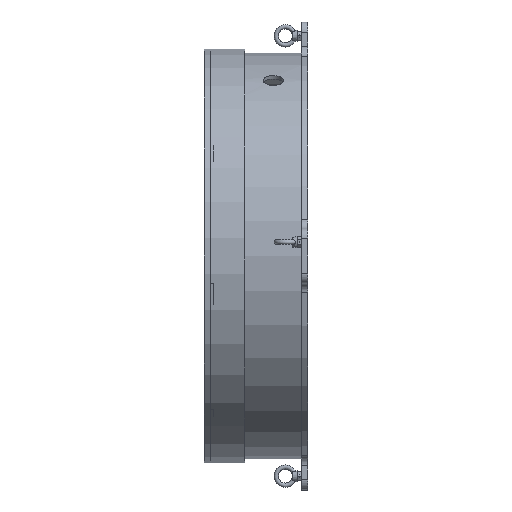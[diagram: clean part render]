
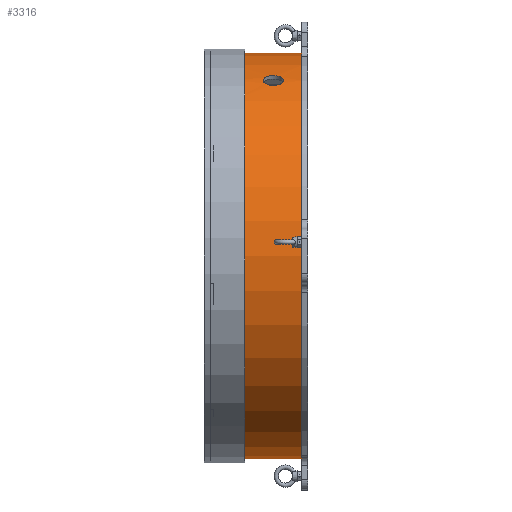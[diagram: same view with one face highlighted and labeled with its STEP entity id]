
A CAD part, left-side view. The second image highlights one B-rep face of the part: STEP entity #3316.
In plain terms, the highlighted cylindrical face has radius 293 mm (diameter 586 mm), a partial arc.
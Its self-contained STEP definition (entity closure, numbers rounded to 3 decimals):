
#246=FACE_BOUND('',#776,.T.);
#301=B_SPLINE_CURVE_WITH_KNOTS('',3,(#5300,#5301,#5302,#5303,#5304,#5305,
#5306,#5307,#5308,#5309,#5310,#5311,#5312,#5313,#5314,#5315,#5316,#5317,
#5318,#5319,#5320,#5321,#5322,#5323,#5324,#5325,#5326,#5327,#5328,#5329,
#5330,#5331,#5332,#5333),.UNSPECIFIED.,.T.,.F.,(4,2,2,2,2,2,2,2,2,2,2,2,
2,2,2,2,4),(0.,0.546,1.093,1.639,2.185,
2.731,3.278,3.824,4.37,4.917,
5.463,6.009,6.555,7.102,7.648,
8.194,8.741),.UNSPECIFIED.);
#323=CYLINDRICAL_SURFACE('',#3748,293.);
#389=CIRCLE('',#3744,293.);
#390=CIRCLE('',#3746,293.);
#392=CIRCLE('',#3749,293.);
#393=CIRCLE('',#3750,293.);
#573=FACE_OUTER_BOUND('',#775,.T.);
#775=EDGE_LOOP('',(#2299,#2300,#2301,#2302,#2303,#2304));
#776=EDGE_LOOP('',(#2305));
#1029=LINE('',#5273,#1273);
#1035=LINE('',#5285,#1279);
#1273=VECTOR('',#4175,10.);
#1279=VECTOR('',#4183,10.);
#1516=VERTEX_POINT('',#5269);
#1518=VERTEX_POINT('',#5272);
#1521=VERTEX_POINT('',#5279);
#1523=VERTEX_POINT('',#5283);
#1525=VERTEX_POINT('',#5289);
#1526=VERTEX_POINT('',#5296);
#1527=VERTEX_POINT('',#5299);
#1818=EDGE_CURVE('',#1518,#1516,#1029,.T.);
#1824=EDGE_CURVE('',#1521,#1523,#1035,.T.);
#1827=EDGE_CURVE('',#1525,#1523,#389,.T.);
#1828=EDGE_CURVE('',#1518,#1525,#390,.T.);
#1830=EDGE_CURVE('',#1516,#1526,#392,.T.);
#1831=EDGE_CURVE('',#1526,#1521,#393,.T.);
#1832=EDGE_CURVE('',#1527,#1527,#301,.T.);
#2299=ORIENTED_EDGE('',*,*,#1818,.T.);
#2300=ORIENTED_EDGE('',*,*,#1830,.T.);
#2301=ORIENTED_EDGE('',*,*,#1831,.T.);
#2302=ORIENTED_EDGE('',*,*,#1824,.T.);
#2303=ORIENTED_EDGE('',*,*,#1827,.F.);
#2304=ORIENTED_EDGE('',*,*,#1828,.F.);
#2305=ORIENTED_EDGE('',*,*,#1832,.T.);
#3316=ADVANCED_FACE('',(#573,#246),#323,.T.);
#3744=AXIS2_PLACEMENT_3D('',#5291,#4189,#4190);
#3746=AXIS2_PLACEMENT_3D('',#5293,#4193,#4194);
#3748=AXIS2_PLACEMENT_3D('',#5295,#4197,#4198);
#3749=AXIS2_PLACEMENT_3D('',#5297,#4199,#4200);
#3750=AXIS2_PLACEMENT_3D('',#5298,#4201,#4202);
#4175=DIRECTION('',(0.,1.,0.));
#4183=DIRECTION('',(0.,-1.,0.));
#4189=DIRECTION('center_axis',(0.,-1.,0.));
#4190=DIRECTION('ref_axis',(-1.,0.,0.));
#4193=DIRECTION('center_axis',(0.,-1.,0.));
#4194=DIRECTION('ref_axis',(-1.,0.,0.));
#4197=DIRECTION('center_axis',(0.,-1.,0.));
#4198=DIRECTION('ref_axis',(0.866,0.,0.5));
#4199=DIRECTION('center_axis',(0.,-1.,0.));
#4200=DIRECTION('ref_axis',(-1.,0.,0.));
#4201=DIRECTION('center_axis',(0.,-1.,0.));
#4202=DIRECTION('ref_axis',(-1.,0.,0.));
#5269=CARTESIAN_POINT('',(-253.595,100.,-146.76));
#5272=CARTESIAN_POINT('',(-253.595,0.,-146.76));
#5273=CARTESIAN_POINT('',(-253.595,50.,-146.76));
#5279=CARTESIAN_POINT('',(-253.895,100.,-146.24));
#5283=CARTESIAN_POINT('',(-253.895,0.,-146.24));
#5285=CARTESIAN_POINT('',(-253.895,50.,-146.24));
#5289=CARTESIAN_POINT('',(-293.,0.,0.));
#5291=CARTESIAN_POINT('Origin',(0.,0.,0.));
#5293=CARTESIAN_POINT('Origin',(0.,0.,0.));
#5295=CARTESIAN_POINT('Origin',(0.,50.,0.));
#5296=CARTESIAN_POINT('',(-293.,100.,0.));
#5297=CARTESIAN_POINT('Origin',(0.,100.,0.));
#5298=CARTESIAN_POINT('Origin',(0.,100.,0.));
#5299=CARTESIAN_POINT('',(133.763,41.,-260.685));
#5300=CARTESIAN_POINT('Ctrl Pts',(133.763,41.,-260.685));
#5301=CARTESIAN_POINT('Ctrl Pts',(133.763,39.179,-260.685));
#5302=CARTESIAN_POINT('Ctrl Pts',(134.088,37.237,-260.519));
#5303=CARTESIAN_POINT('Ctrl Pts',(135.403,33.664,-259.837));
#5304=CARTESIAN_POINT('Ctrl Pts',(136.394,32.034,-259.321));
#5305=CARTESIAN_POINT('Ctrl Pts',(138.668,29.46,-258.112));
#5306=CARTESIAN_POINT('Ctrl Pts',(140.104,28.344,-257.338));
#5307=CARTESIAN_POINT('Ctrl Pts',(143.232,26.864,-255.611));
#5308=CARTESIAN_POINT('Ctrl Pts',(144.923,26.5,-254.656));
#5309=CARTESIAN_POINT('Ctrl Pts',(148.077,26.5,-252.835));
#5310=CARTESIAN_POINT('Ctrl Pts',(149.75,26.864,-251.848));
#5311=CARTESIAN_POINT('Ctrl Pts',(152.81,28.344,-250.003));
#5312=CARTESIAN_POINT('Ctrl Pts',(154.197,29.46,-249.146));
#5313=CARTESIAN_POINT('Ctrl Pts',(156.382,32.034,-247.781));
#5314=CARTESIAN_POINT('Ctrl Pts',(157.324,33.664,-247.181));
#5315=CARTESIAN_POINT('Ctrl Pts',(158.572,37.237,-246.383));
#5316=CARTESIAN_POINT('Ctrl Pts',(158.878,39.179,-246.185));
#5317=CARTESIAN_POINT('Ctrl Pts',(158.878,42.821,-246.185));
#5318=CARTESIAN_POINT('Ctrl Pts',(158.572,44.763,-246.383));
#5319=CARTESIAN_POINT('Ctrl Pts',(157.324,48.336,-247.181));
#5320=CARTESIAN_POINT('Ctrl Pts',(156.382,49.966,-247.781));
#5321=CARTESIAN_POINT('Ctrl Pts',(154.197,52.54,-249.146));
#5322=CARTESIAN_POINT('Ctrl Pts',(152.81,53.656,-250.003));
#5323=CARTESIAN_POINT('Ctrl Pts',(149.75,55.136,-251.848));
#5324=CARTESIAN_POINT('Ctrl Pts',(148.077,55.5,-252.835));
#5325=CARTESIAN_POINT('Ctrl Pts',(144.923,55.5,-254.656));
#5326=CARTESIAN_POINT('Ctrl Pts',(143.232,55.136,-255.611));
#5327=CARTESIAN_POINT('Ctrl Pts',(140.104,53.656,-257.338));
#5328=CARTESIAN_POINT('Ctrl Pts',(138.668,52.54,-258.112));
#5329=CARTESIAN_POINT('Ctrl Pts',(136.394,49.966,-259.321));
#5330=CARTESIAN_POINT('Ctrl Pts',(135.403,48.336,-259.837));
#5331=CARTESIAN_POINT('Ctrl Pts',(134.088,44.763,-260.519));
#5332=CARTESIAN_POINT('Ctrl Pts',(133.763,42.821,-260.685));
#5333=CARTESIAN_POINT('Ctrl Pts',(133.763,41.,-260.685));
